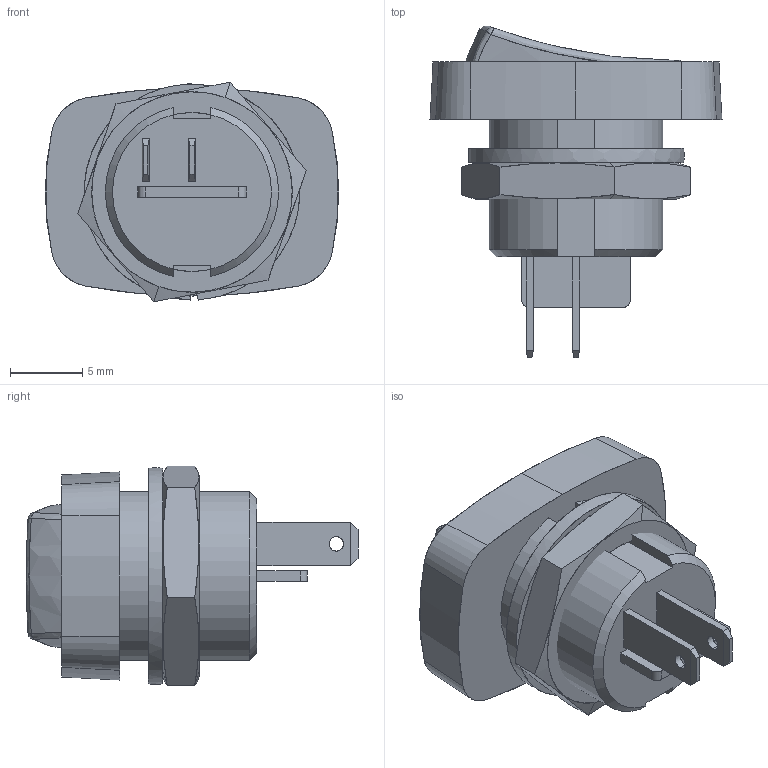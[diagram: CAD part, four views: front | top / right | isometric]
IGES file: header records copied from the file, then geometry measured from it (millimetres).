
Start section: SolidWorks IGES file using analytic representation for surfaces
Global section: file name: D:\RESSOURCES\bibliothèque Solidworks\Composants électriques\Interrupteurs - Boutons\interrupteur à bascule\inter basc.IGS; native system: SolidWorks 2014; preprocessor: SolidWorks 2014; author: User; date: 201214.181306; units: millimetre
Bounding box: 20.3 x 22.97 x 15.21 mm (x, y, z)
Surface area: 2370.3 mm2 (no closed solid volume)
Topology: 0 solids, 0 shells, 115 faces, 2744 edges, 3290 vertices
Faces by surface type: bspline 65, revolution 50
